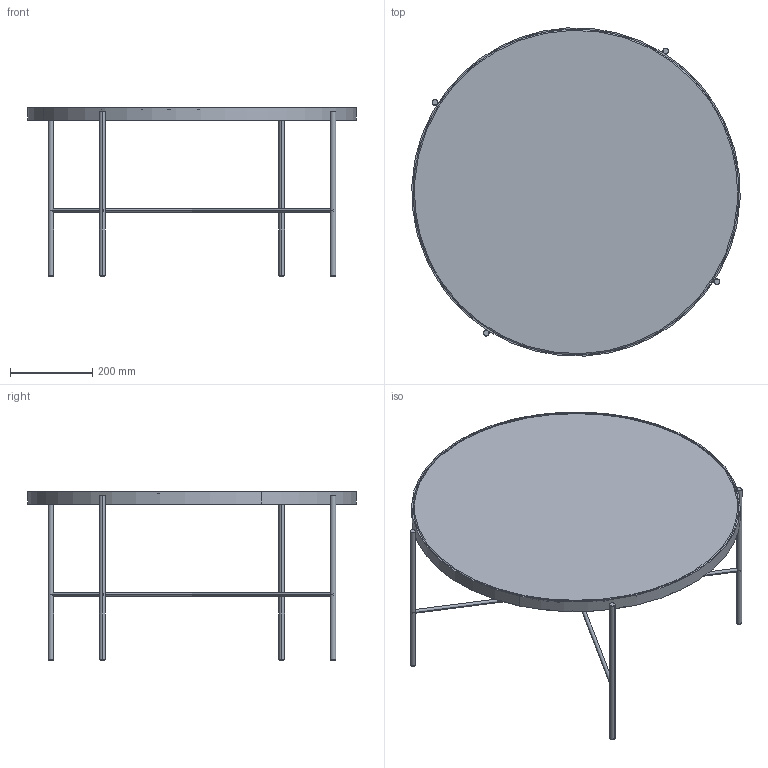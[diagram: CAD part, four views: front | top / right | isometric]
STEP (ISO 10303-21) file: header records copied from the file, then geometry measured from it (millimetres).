
FILE_DESCRIPTION(/* description */ (''),/* implementation_level */ '2;1');
FILE_NAME(/* name */ 'KINOSH~1',/* time_stamp */ '2019-07-24T09:48:11+09:00',/* author */ (''),/* organization */ (''),/* preprocessor_version */ 'ST-DEVELOPER v15',/* originating_system */ '',/* authorisation */ '');
FILE_SCHEMA (('AUTOMOTIVE_DESIGN'));
Length unit declared in the file: millimetre
Products named in the file (1): Document
Bounding box: 799.29 x 798.71 x 410.2 mm (x, y, z)
Volume: 3029146.3 mm3; surface area: 1279104.2 mm2
Topology: 8 solids, 8 shells, 44 faces, 74 edges, 46 vertices
Faces by surface type: bspline 28, plane 16
Entity records: 1627 total; most frequent: CARTESIAN_POINT 1123, ORIENTED_EDGE 148, EDGE_CURVE 74, EDGE_LOOP 46, VERTEX_POINT 46, ADVANCED_FACE 44, FACE_OUTER_BOUND 44, DIRECTION 20
